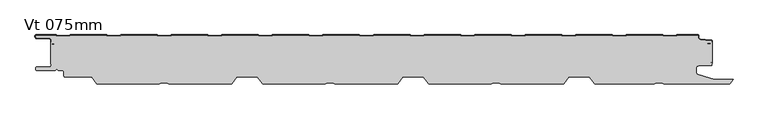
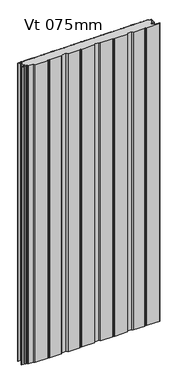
"""IFC4 building model written with IfcOpenShell, lengths in millimetres: plate geometry, KIP-MEX-KW-R19-CP-Vt-KW7_SL : Vt 075mm."""

from ifc_helpers import new_model, si_unit, point, frame, frame_2d, origin, origin_with_axes, place, context, project, spatial, polyline, circle_curve, trimmed, segment, composite_curve, outline, extrude, source, transform, mapped, element, save
from ifc_brep_helpers import plane_surface, cylinder_surface, revolved_surface, advanced_brep


def vt_075mm_f3c19188(model_context):
    return source(origin(), model_context, "Body", "SolidModel", [
        advanced_brep(
        [(488.7785899, -14.1740781, 2400.0), (488.6914342, -13.1778834, 2400.0), (494.4799801, -12.6714513, 2400.0), (495.7350457, -11.7512327, 2400.0), (495.7350457, -9.8277288, 2400.0), (494.4792848, -8.9074494, 2400.0), (478.1842394, -7.4894566, 2400.0), (475.4443161, -4.5007512, 2400.0), (475.4443161, -1.0007512, 2400.0), (443.8382986, -1.0007512, 2400.0), (442.7532001, -2.1994992, 2400.0), (422.8212217, -2.1994992, 2400.0), (421.7346975, -1.0, 2400.0), (367.6854138, -1.0, 2400.0), (366.6003153, -2.1994992, 2400.0), (346.668337, -2.1994992, 2400.0), (345.5818127, -1.0, 2400.0), (291.5325291, -1.0, 2400.0), (290.4474305, -2.1994992, 2400.0), (270.5154522, -2.1994992, 2400.0), (269.4289279, -1.0, 2400.0), (215.3796443, -1.0, 2400.0), (214.2945458, -2.1994992, 2400.0), (194.3625675, -2.1994992, 2400.0), (193.2760432, -1.0, 2400.0), (139.2267595, -1.0, 2400.0), (138.141661, -2.1994992, 2400.0), (118.2096827, -2.1994992, 2400.0), (117.1231584, -1.0, 2400.0), (63.0738748, -1.0, 2400.0), (61.9887763, -2.1994992, 2400.0), (42.0567979, -2.1994992, 2400.0), (40.9702737, -1.0, 2400.0), (-13.07901, -1.0, 2400.0), (-14.1641085, -2.1994992, 2400.0), (-34.0960868, -2.1994992, 2400.0), (-35.1826111, -1.0, 2400.0), (-89.230469, -1.0, 2400.0), (-90.3169933, -2.1994992, 2400.0), (-110.2489716, -2.1994992, 2400.0), (-111.3354959, -1.0, 2400.0), (-165.3847795, -1.0, 2400.0), (-166.469878, -2.1994992, 2400.0), (-186.4018563, -2.1994992, 2400.0), (-187.4883806, -1.0, 2400.0), (-241.5362385, -1.0, 2400.0), (-242.6227628, -2.1994992, 2400.0), (-262.5547411, -2.1994992, 2400.0), (-263.6412654, -1.0, 2400.0), (-317.6891233, -1.0, 2400.0), (-318.7756475, -2.1994992, 2400.0), (-338.7076259, -2.1994992, 2400.0), (-339.7941501, -1.0, 2400.0), (-393.842008, -1.0, 2400.0), (-394.9285323, -2.1994992, 2400.0), (-414.8605106, -2.1994992, 2400.0), (-415.9470349, -1.0, 2400.0), (-469.9948928, -1.0, 2400.0), (-471.0814171, -2.1994992, 2400.0), (-491.0133954, -2.1994992, 2400.0), (-492.0999197, -1.0, 2400.0), (-522.505765, -1.0, 2400.0), (-522.505765, -2.5012654, 2400.0), (-520.006135, -5.0008953, 2400.0), (-502.0093092, -5.0008953, 2400.0), (-499.0079862, -8.000131, 2400.0), (-499.0079862, -11.5959732, 2400.0), (-497.766763, -13.0740828, 2400.0), (-494.2244631, -13.6959552, 2400.0), (-494.3973742, -14.6808886, 2400.0), (-497.9396714, -14.0590166, 2400.0), (-500.0000002, -11.7956848, 2400.0), (-500.0000002, -44.3622712, 2400.0), (-497.5115855, -41.8719911, 2400.0), (-492.2480458, -41.8719911, 2400.0), (-492.2480458, -42.8888414, 2400.0), (-497.5062725, -42.8888414, 2400.0), (-499.0056881, -44.3893811, 2400.0), (-499.0056881, -45.8143642, 2400.0), (-502.0059127, -48.8979571, 2400.0), (-521.0430726, -48.8979571, 2400.0), (-522.5064405, -50.3983418, 2400.0), (-522.5064405, -52.3814897, 2400.0), (-521.0062107, -53.8817196, 2400.0), (-493.1202477, -53.8817196, 2400.0), (-490.7060117, -51.4674051, 2400.0), (-488.2917757, -53.8815626, 2400.0), (-482.7060145, -53.8815626, 2400.0), (-479.7060088, -56.8815682, 2400.0), (-479.7060088, -62.3815743, 2400.0), (-478.2556825, -63.8807501, 2400.0), (-438.275811, -63.8807501, 2400.0), (-430.367997, -74.0007512, 2400.0), (-336.0919259, -74.0007512, 2400.0), (-333.091739, -72.5007486, 2400.0), (-324.6196287, -72.5007486, 2400.0), (-321.6194418, -74.0007512, 2400.0), (-227.3363087, -74.0007512, 2400.0), (-219.3363087, -64.0007512, 2400.0), (-188.375059, -64.0007512, 2400.0), (-180.375059, -74.0007512, 2400.0), (-86.0919259, -74.0007512, 2400.0), (-83.091739, -72.5007486, 2400.0), (-74.6196287, -72.5007486, 2400.0), (-71.6194418, -74.0007512, 2400.0), (22.6636913, -74.0007512, 2400.0), (30.6636913, -64.0007512, 2400.0), (61.624941, -64.0007512, 2400.0), (69.624941, -74.0007512, 2400.0), (163.9080741, -74.0007512, 2400.0), (166.908261, -72.5007486, 2400.0), (175.3803713, -72.5007486, 2400.0), (178.3805582, -74.0007512, 2400.0), (272.6636913, -74.0007512, 2400.0), (280.6636913, -64.0007512, 2400.0), (311.624941, -64.0007512, 2400.0), (319.624941, -74.0007512, 2400.0), (408.9083129, -74.0007512, 2400.0), (411.9084998, -72.5007486, 2400.0), (420.38061, -72.5007486, 2400.0), (423.3807969, -74.0007512, 2400.0), (522.656057, -74.0007512, 2400.0), (527.9339159, -67.2461374, 2400.0), (499.5757533, -67.2461374, 2400.0), (474.8575959, -60.1479029, 2400.0), (472.6935242, -57.2749195, 2400.0), (472.6935242, -49.8076629, 2400.0), (475.71441, -46.786777, 2400.0), (494.2379226, -46.786777, 2400.0), (495.7320319, -45.2926678, 2400.0), (495.7320319, -43.743257, 2400.0), (494.2336758, -42.244901, 2400.0), (489.7350458, -42.244901, 2400.0), (489.7350458, -41.2447029, 2400.0), (494.2339235, -41.2447029, 2400.0), (496.7325767, -43.7433561, 2400.0), (496.7325767, -11.9319683, 2400.0), (494.5671358, -13.667646, 2400.0), (488.7785899, -14.1740781, 0.0), (494.5671358, -13.667646, 0.0), (496.7325767, -11.9319683, 0.0), (496.7325767, -43.7433561, 0.0), (494.2339235, -41.2447029, 0.0), (489.7350458, -41.2447029, 0.0), (489.7350458, -42.244901, 0.0), (494.2336758, -42.244901, 0.0), (495.7320319, -43.743257, 0.0), (495.7320319, -45.2926678, 0.0), (494.2379226, -46.786777, 0.0), (475.71441, -46.786777, 0.0), (472.6935242, -49.8076629, 0.0), (472.6935242, -57.2749195, 0.0), (474.8575958, -60.1479032, 0.0), (499.5757533, -67.2461374, 0.0), (527.9339159, -67.2461374, 0.0), (522.656057, -74.0007512, 0.0), (423.3807969, -74.0007512, 0.0), (420.38061, -72.5007486, 0.0), (411.9084998, -72.5007486, 0.0), (408.9083129, -74.0007512, 0.0), (319.624941, -74.0007512, 0.0), (311.624941, -64.0007512, 0.0), (280.6636913, -64.0007512, 0.0), (272.6636913, -74.0007512, 0.0), (178.3805582, -74.0007512, 0.0), (175.3803713, -72.5007486, 0.0), (166.908261, -72.5007486, 0.0), (163.9080741, -74.0007512, 0.0), (69.624941, -74.0007512, 0.0), (61.624941, -64.0007512, 0.0), (30.6636913, -64.0007512, 0.0), (22.6636913, -74.0007512, 0.0), (-71.6194418, -74.0007512, 0.0), (-74.6196287, -72.5007486, 0.0), (-83.091739, -72.5007486, 0.0), (-86.0919259, -74.0007512, 0.0), (-180.375059, -74.0007512, 0.0), (-188.375059, -64.0007512, 0.0), (-219.3363087, -64.0007512, 0.0), (-227.3363087, -74.0007512, 0.0), (-321.6194418, -74.0007512, 0.0), (-324.6196287, -72.5007486, 0.0), (-333.091739, -72.5007486, 0.0), (-336.0919259, -74.0007512, 0.0), (-430.367997, -74.0007512, 0.0), (-438.275811, -63.8807501, 0.0), (-478.2556825, -63.8807501, 0.0), (-479.7060088, -62.3815743, 0.0), (-479.7060088, -56.8815682, 0.0), (-482.7060145, -53.8815626, 0.0), (-488.2917757, -53.8815626, 0.0), (-490.7060117, -51.4674051, 0.0), (-493.1202477, -53.8817196, 0.0), (-521.0062107, -53.8817196, 0.0), (-522.5064405, -52.3814897, 0.0), (-522.5064405, -50.3983418, 0.0), (-521.0430726, -48.8979571, 0.0), (-502.0059127, -48.8979571, 0.0), (-499.0056881, -45.8143642, 0.0), (-499.0056881, -44.3893811, 0.0), (-497.5062725, -42.8888414, 0.0), (-492.2480458, -42.8888414, 0.0), (-492.2480458, -41.8719911, 0.0), (-497.5115855, -41.8719911, 0.0), (-500.0000002, -44.3622712, 0.0), (-500.0000002, -11.7956848, 0.0), (-497.9396714, -14.0590167, 0.0), (-494.3973742, -14.6808886, 0.0), (-494.2244631, -13.6959552, 0.0), (-497.766763, -13.0740827, 0.0), (-499.0079862, -11.5959732, 0.0), (-499.0079862, -8.000131, 0.0), (-502.0093092, -5.0008953, 0.0), (-520.006135, -5.0008953, 0.0), (-522.505765, -2.5012654, 0.0), (-522.505765, -1.0, 0.0), (-492.0999197, -1.0, 0.0), (-491.0133954, -2.1994992, 0.0), (-471.0814171, -2.1994992, 0.0), (-469.9948928, -1.0, 0.0), (-415.9470349, -1.0, 0.0), (-414.8605106, -2.1994992, 0.0), (-394.9285323, -2.1994992, 0.0), (-393.842008, -1.0, 0.0), (-339.7941501, -1.0, 0.0), (-338.7076259, -2.1994992, 0.0), (-318.7756475, -2.1994992, 0.0), (-317.6891233, -1.0, 0.0), (-263.6412654, -1.0, 0.0), (-262.5547411, -2.1994992, 0.0), (-242.6227628, -2.1994992, 0.0), (-241.5362385, -1.0, 0.0), (-187.4883806, -1.0, 0.0), (-186.4018563, -2.1994992, 0.0), (-166.469878, -2.1994992, 0.0), (-165.3847795, -1.0, 0.0), (-111.3354959, -1.0, 0.0), (-110.2489716, -2.1994992, 0.0), (-90.3169933, -2.1994992, 0.0), (-89.230469, -1.0, 0.0), (-35.1826111, -1.0, 0.0), (-34.0960868, -2.1994992, 0.0), (-14.1641085, -2.1994992, 0.0), (-13.07901, -1.0, 0.0), (40.9702737, -1.0, 0.0), (42.0567979, -2.1994992, 0.0), (61.9887763, -2.1994992, 0.0), (63.0738748, -1.0, 0.0), (117.1231584, -1.0, 0.0), (118.2096827, -2.1994992, 0.0), (138.141661, -2.1994992, 0.0), (139.2267595, -1.0, 0.0), (193.2760432, -1.0, 0.0), (194.3625675, -2.1994992, 0.0), (214.2945458, -2.1994992, 0.0), (215.3796443, -1.0, 0.0), (269.4289279, -1.0, 0.0), (270.5154522, -2.1994992, 0.0), (290.4474305, -2.1994992, 0.0), (291.5325291, -1.0, 0.0), (345.5818127, -1.0, 0.0), (346.668337, -2.1994992, 0.0), (366.6003153, -2.1994992, 0.0), (367.6854138, -1.0, 0.0), (421.7346975, -1.0, 0.0), (422.8212217, -2.1994992, 0.0), (442.7532001, -2.1994992, 0.0), (443.8382986, -1.0007512, 0.0), (475.4443161, -1.0007512, 0.0), (475.4443161, -4.5007512, 0.0), (478.1842394, -7.4894566, 0.0), (494.4792848, -8.9074494, 0.0), (495.7350457, -9.8277288, 0.0), (495.7350457, -11.7512327, 0.0), (494.4799801, -12.6714513, 0.0), (488.6914342, -13.1778834, 0.0)],
        [
            (0, 1),
            (1, 2),
            (2, 3, circle_curve(frame((494.3492464, -11.1771592, 2400.0), z_axis=(0.0, 0.0, 1.0), x_axis=(-1.0, 0.0, 0.0)), 1.5)),
            (3, 4),
            (4, 5, circle_curve(frame((494.3492464, -10.4018021, 2400.0), z_axis=(0.0, 0.0, 1.0), x_axis=(-1.0, 0.0, 0.0)), 1.4999999)),
            (5, 6),
            (6, 7, circle_curve(frame((478.4443161, -4.5007512, 2400.0), z_axis=(0.0, 0.0, -1.0), x_axis=(-1.0, 0.0, 0.0)), 3.0)),
            (7, 8),
            (8, 9),
            (9, 10),
            (10, 11),
            (11, 12),
            (12, 13),
            (13, 14),
            (14, 15),
            (15, 16),
            (16, 17),
            (17, 18),
            (18, 19),
            (19, 20),
            (20, 21),
            (21, 22),
            (22, 23),
            (23, 24),
            (24, 25),
            (25, 26),
            (26, 27),
            (27, 28),
            (28, 29),
            (29, 30),
            (30, 31),
            (31, 32),
            (32, 33),
            (33, 34),
            (34, 35),
            (35, 36),
            (36, 37),
            (37, 38),
            (38, 39),
            (39, 40),
            (40, 41),
            (41, 42),
            (42, 43),
            (43, 44),
            (44, 45),
            (45, 46),
            (46, 47),
            (47, 48),
            (48, 49),
            (49, 50),
            (50, 51),
            (51, 52),
            (52, 53),
            (53, 54),
            (54, 55),
            (55, 56),
            (56, 57),
            (57, 58),
            (58, 59),
            (59, 60),
            (60, 61),
            (61, 62),
            (62, 63, circle_curve(frame((-520.006135, -2.5012654, 2400.0), z_axis=(0.0, 0.0, 1.0), x_axis=(-1.0, 0.0, 0.0)), 2.4996299)),
            (63, 64),
            (64, 65, circle_curve(frame((-502.0093092, -8.002219, 2400.0), z_axis=(0.0, 0.0, -1.0), x_axis=(-1.0, 0.0, 0.0)), 3.0013237)),
            (65, 66),
            (66, 67, circle_curve(frame((-497.5072719, -11.5959732, 2400.0), z_axis=(0.0, 0.0, 1.0), x_axis=(-1.0, 0.0, 0.0)), 1.5007143)),
            (67, 68),
            (68, 69),
            (69, 70),
            (70, 71, circle_curve(frame((-497.5072673, -11.5959632, 2400.0), z_axis=(0.0, 0.0, -1.0), x_axis=(-1.0, 0.0, 0.0)), 2.500721)),
            (71, 72),
            (72, 73, circle_curve(frame((-497.5097194, -44.3622712, 2400.0), z_axis=(0.0, 0.0, -1.0), x_axis=(0.0, 1.0, 0.0)), 2.4902807)),
            (73, 74),
            (74, 75),
            (75, 76),
            (76, 77, circle_curve(frame((-497.5051479, -44.3893811, 2400.0), z_axis=(0.0, 0.0, 1.0), x_axis=(0.0, 1.0, 0.0)), 1.5005402)),
            (77, 78),
            (78, 79, circle_curve(frame((-502.0059127, -45.8966056, 2400.0), z_axis=(0.0, 0.0, -1.0), x_axis=(0.0, 1.0, 0.0)), 3.0013516)),
            (79, 80),
            (80, 81, circle_curve(frame((-521.0055876, -50.3983418, 2400.0), z_axis=(0.0, 0.0, 1.0), x_axis=(0.0, 1.0, 0.0)), 1.5008529)),
            (81, 82),
            (82, 83, circle_curve(frame((-521.0062107, -52.3814897, 2400.0), z_axis=(0.0, 0.0, 1.0), x_axis=(0.0, 1.0, 0.0)), 1.5002298)),
            (83, 84),
            (84, 85),
            (85, 86),
            (86, 87),
            (87, 88, circle_curve(frame((-482.7060145, -56.8815682, 2400.0), z_axis=(0.0, 0.0, -1.0), x_axis=(0.0, 1.0, 0.0)), 3.0000056)),
            (88, 89),
            (89, 90, circle_curve(frame((-478.2060104, -62.3815743, 2400.0), z_axis=(0.0, 0.0, 1.0), x_axis=(0.0, 1.0, 0.0)), 1.4999984)),
            (90, 91),
            (91, 92),
            (92, 93),
            (93, 94),
            (94, 95),
            (95, 96),
            (96, 97),
            (97, 98),
            (98, 99),
            (99, 100),
            (100, 101),
            (101, 102),
            (102, 103),
            (103, 104),
            (104, 105),
            (105, 106),
            (106, 107),
            (107, 108),
            (108, 109),
            (109, 110),
            (110, 111),
            (111, 112),
            (112, 113),
            (113, 114),
            (114, 115),
            (115, 116),
            (116, 117),
            (117, 118),
            (118, 119),
            (119, 120),
            (120, 121),
            (121, 122),
            (122, 123),
            (123, 124),
            (124, 125, circle_curve(frame((475.6826214, -57.2749195, 2400.0), z_axis=(0.0, 0.0, -1.0), x_axis=(0.0, 1.0, 0.0)), 2.9890972)),
            (125, 126),
            (126, 127, circle_curve(frame((475.71441, -49.8076629, 2400.0), z_axis=(0.0, 0.0, -1.0), x_axis=(0.0, 1.0, 0.0)), 3.0208858)),
            (127, 128),
            (128, 129, circle_curve(frame((494.2379226, -45.2926678, 2400.0), z_axis=(0.0, 0.0, 1.0), x_axis=(0.0, 1.0, 0.0)), 1.4941093)),
            (129, 130),
            (130, 131, circle_curve(frame((494.2336758, -43.743257, 2400.0), z_axis=(0.0, 0.0, 1.0), x_axis=(0.0, 1.0, 0.0)), 1.4983561)),
            (131, 132),
            (132, 133),
            (133, 134),
            (134, 135, circle_curve(frame((494.2339235, -43.7433561, 2400.0), z_axis=(0.0, 0.0, -1.0), x_axis=(0.0, 1.0, 0.0)), 2.4986532)),
            (135, 136),
            (136, 137, circle_curve(frame((494.3492464, -11.1771592, 2400.0), z_axis=(0.0, 0.0, -1.0), x_axis=(-1.0, 0.0, 0.0)), 2.5)),
            (137, 0),
            (138, 139),
            (139, 140, circle_curve(frame((494.3492464, -11.1771592, 0.0), z_axis=(0.0, 0.0, 1.0), x_axis=(-1.0, 0.0, 0.0)), 2.5)),
            (140, 141),
            (141, 142, circle_curve(frame((494.2339235, -43.7433561, 0.0), z_axis=(0.0, 0.0, 1.0), x_axis=(0.0, 1.0, 0.0)), 2.4986532)),
            (142, 143),
            (143, 144),
            (144, 145),
            (145, 146, circle_curve(frame((494.2336758, -43.743257, 0.0), z_axis=(0.0, 0.0, -1.0), x_axis=(0.0, 1.0, 0.0)), 1.4983561)),
            (146, 147),
            (147, 148, circle_curve(frame((494.2379226, -45.2926678, 0.0), z_axis=(0.0, 0.0, -1.0), x_axis=(0.0, 1.0, 0.0)), 1.4941093)),
            (148, 149),
            (149, 150, circle_curve(frame((475.71441, -49.8076629, 0.0), z_axis=(0.0, 0.0, 1.0), x_axis=(0.0, 1.0, 0.0)), 3.0208858)),
            (150, 151),
            (151, 152, circle_curve(frame((475.6826214, -57.2749195, 0.0), z_axis=(0.0, 0.0, 1.0), x_axis=(0.0, 1.0, 0.0)), 2.9890972)),
            (152, 153),
            (153, 154),
            (154, 155),
            (155, 156),
            (156, 157),
            (157, 158),
            (158, 159),
            (159, 160),
            (160, 161),
            (161, 162),
            (162, 163),
            (163, 164),
            (164, 165),
            (165, 166),
            (166, 167),
            (167, 168),
            (168, 169),
            (169, 170),
            (170, 171),
            (171, 172),
            (172, 173),
            (173, 174),
            (174, 175),
            (175, 176),
            (176, 177),
            (177, 178),
            (178, 179),
            (179, 180),
            (180, 181),
            (181, 182),
            (182, 183),
            (183, 184),
            (184, 185),
            (185, 186),
            (186, 187, circle_curve(frame((-478.2060104, -62.3815743, 0.0), z_axis=(0.0, 0.0, -1.0), x_axis=(0.0, 1.0, 0.0)), 1.4999984)),
            (187, 188),
            (188, 189, circle_curve(frame((-482.7060145, -56.8815682, 0.0), z_axis=(0.0, 0.0, 1.0), x_axis=(0.0, 1.0, 0.0)), 3.0000056)),
            (189, 190),
            (190, 191),
            (191, 192),
            (192, 193),
            (193, 194, circle_curve(frame((-521.0062107, -52.3814897, 0.0), z_axis=(0.0, 0.0, -1.0), x_axis=(0.0, 1.0, 0.0)), 1.5002298)),
            (194, 195),
            (195, 196, circle_curve(frame((-521.0055876, -50.3983418, 0.0), z_axis=(0.0, 0.0, -1.0), x_axis=(0.0, 1.0, 0.0)), 1.5008529)),
            (196, 197),
            (197, 198, circle_curve(frame((-502.0059127, -45.8966056, 0.0), z_axis=(0.0, 0.0, 1.0), x_axis=(0.0, 1.0, 0.0)), 3.0013516)),
            (198, 199),
            (199, 200, circle_curve(frame((-497.5051479, -44.3893811, 0.0), z_axis=(0.0, 0.0, -1.0), x_axis=(0.0, 1.0, 0.0)), 1.5005402)),
            (200, 201),
            (201, 202),
            (202, 203),
            (203, 204, circle_curve(frame((-497.5097194, -44.3622712, 0.0), z_axis=(0.0, 0.0, 1.0), x_axis=(0.0, 1.0, 0.0)), 2.4902807)),
            (204, 205),
            (205, 206, circle_curve(frame((-497.5072673, -11.5959632, 0.0), z_axis=(0.0, 0.0, 1.0), x_axis=(-1.0, 0.0, 0.0)), 2.500721)),
            (206, 207),
            (207, 208),
            (208, 209),
            (209, 210, circle_curve(frame((-497.5072719, -11.5959732, 0.0), z_axis=(0.0, 0.0, -1.0), x_axis=(-1.0, 0.0, 0.0)), 1.5007143)),
            (210, 211),
            (211, 212, circle_curve(frame((-502.0093092, -8.002219, 0.0), z_axis=(0.0, 0.0, 1.0), x_axis=(-1.0, 0.0, 0.0)), 3.0013237)),
            (212, 213),
            (213, 214, circle_curve(frame((-520.006135, -2.5012654, 0.0), z_axis=(0.0, 0.0, -1.0), x_axis=(-1.0, 0.0, 0.0)), 2.4996299)),
            (214, 215),
            (215, 216),
            (216, 217),
            (217, 218),
            (218, 219),
            (219, 220),
            (220, 221),
            (221, 222),
            (222, 223),
            (223, 224),
            (224, 225),
            (225, 226),
            (226, 227),
            (227, 228),
            (228, 229),
            (229, 230),
            (230, 231),
            (231, 232),
            (232, 233),
            (233, 234),
            (234, 235),
            (235, 236),
            (236, 237),
            (237, 238),
            (238, 239),
            (239, 240),
            (240, 241),
            (241, 242),
            (242, 243),
            (243, 244),
            (244, 245),
            (245, 246),
            (246, 247),
            (247, 248),
            (248, 249),
            (249, 250),
            (250, 251),
            (251, 252),
            (252, 253),
            (253, 254),
            (254, 255),
            (255, 256),
            (256, 257),
            (257, 258),
            (258, 259),
            (259, 260),
            (260, 261),
            (261, 262),
            (262, 263),
            (263, 264),
            (264, 265),
            (265, 266),
            (266, 267),
            (267, 268),
            (268, 269),
            (269, 270, circle_curve(frame((478.4443161, -4.5007512, 0.0), z_axis=(0.0, 0.0, 1.0), x_axis=(-1.0, 0.0, 0.0)), 3.0)),
            (270, 271),
            (271, 272, circle_curve(frame((494.3492464, -10.4018021, 0.0), z_axis=(0.0, 0.0, -1.0), x_axis=(-1.0, 0.0, 0.0)), 1.4999999)),
            (272, 273),
            (273, 274, circle_curve(frame((494.3492464, -11.1771592, 0.0), z_axis=(0.0, 0.0, -1.0), x_axis=(-1.0, 0.0, 0.0)), 1.5)),
            (274, 275),
            (275, 138),
            (137, 139),
            (138, 0),
            (136, 140),
            (135, 141),
            (134, 142),
            (133, 143),
            (132, 144),
            (131, 145),
            (130, 146),
            (129, 147),
            (128, 148),
            (127, 149),
            (126, 150),
            (125, 151),
            (124, 152),
            (123, 153),
            (122, 154),
            (121, 155),
            (120, 156),
            (92, 184),
            (183, 93),
            (91, 185),
            (90, 186),
            (89, 187),
            (88, 188),
            (87, 189),
            (86, 190),
            (85, 191),
            (84, 192),
            (83, 193),
            (82, 194),
            (81, 195),
            (80, 196),
            (79, 197),
            (78, 198),
            (77, 199),
            (76, 200),
            (75, 201),
            (74, 202),
            (73, 203),
            (72, 204),
            (71, 205),
            (70, 206),
            (69, 207),
            (68, 208),
            (67, 209),
            (66, 210),
            (65, 211),
            (64, 212),
            (63, 213),
            (62, 214),
            (61, 215),
            (60, 216),
            (59, 217),
            (58, 218),
            (57, 219),
            (56, 220),
            (55, 221),
            (54, 222),
            (53, 223),
            (52, 224),
            (51, 225),
            (50, 226),
            (49, 227),
            (48, 228),
            (47, 229),
            (46, 230),
            (45, 231),
            (44, 232),
            (43, 233),
            (42, 234),
            (41, 235),
            (40, 236),
            (39, 237),
            (38, 238),
            (37, 239),
            (36, 240),
            (35, 241),
            (34, 242),
            (33, 243),
            (32, 244),
            (31, 245),
            (30, 246),
            (29, 247),
            (28, 248),
            (27, 249),
            (26, 250),
            (25, 251),
            (24, 252),
            (23, 253),
            (22, 254),
            (21, 255),
            (20, 256),
            (19, 257),
            (18, 258),
            (17, 259),
            (16, 260),
            (15, 261),
            (14, 262),
            (13, 263),
            (12, 264),
            (11, 265),
            (10, 266),
            (9, 267),
            (8, 268),
            (7, 269),
            (6, 270),
            (5, 271),
            (4, 272),
            (3, 273),
            (2, 274),
            (1, 275),
            (119, 157),
            (118, 158),
            (117, 159),
            (116, 160),
            (115, 161),
            (114, 162),
            (113, 163),
            (112, 164),
            (111, 165),
            (110, 166),
            (109, 167),
            (108, 168),
            (107, 169),
            (106, 170),
            (105, 171),
            (104, 172),
            (103, 173),
            (102, 174),
            (101, 175),
            (100, 176),
            (99, 177),
            (98, 178),
            (97, 179),
            (96, 180),
            (95, 181),
            (94, 182),
        ],
        [
            plane_surface(frame((-1.6597565, -74.0, 2400.0), z_axis=(0.0, 0.0, 1.0), x_axis=(0.0, -1.0, 0.0))),
            plane_surface(frame((-1.6597565, -74.0, 0.0), z_axis=(0.0, 0.0, -1.0), x_axis=(0.0, -1.0, 0.0))),
            plane_surface(frame((488.7785899, -14.1740781, 2400.0), z_axis=(-0.08715574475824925, 0.9961946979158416, 0.0), x_axis=(0.0, 0.0, -1.0))),
            revolved_surface(polyline([(491.8492464, -11.1771592, 0.0), (491.8492464, -11.1771592, 2400.0)]), (494.3492464, -11.1771592, 2400.0), (0.0, 0.0, -1.0)),
            plane_surface(frame((496.7325767, -11.9319683, 2400.0), z_axis=(1.0, 0.0, 0.0), x_axis=(0.0, 0.0, -1.0))),
            revolved_surface(polyline([(494.2339235, -41.2447029, 0.0), (494.2339235, -41.2447029, 2400.0)]), (494.2339235, -43.7433561, 2400.0), (0.0, 0.0, -1.0)),
            plane_surface(frame((494.2339235, -41.2447029, 2400.0), z_axis=(0.0, -1.0, 0.0), x_axis=(0.0, 0.0, -1.0))),
            plane_surface(frame((489.7350458, -41.2447029, 2400.0), z_axis=(1.0, 0.0, 0.0), x_axis=(0.0, 0.0, -1.0))),
            plane_surface(frame((489.7350458, -42.244901, 2400.0), z_axis=(0.0, 1.0, 0.0), x_axis=(0.0, 0.0, -1.0))),
            cylinder_surface(frame((494.2336758, -43.743257, 2400.0), z_axis=(0.0, 0.0, 1.0), x_axis=(0.0, 1.0, 0.0)), 1.4983561),
            plane_surface(frame((495.7320319, -43.743257, 2400.0), z_axis=(1.0, 0.0, 0.0), x_axis=(0.0, 0.0, -1.0))),
            cylinder_surface(frame((494.2379226, -45.2926678, 2400.0), z_axis=(0.0, 0.0, 1.0), x_axis=(0.0, 1.0, 0.0)), 1.4941093),
            plane_surface(frame((494.2379226, -46.786777, 2400.0), z_axis=(0.0, -1.0, 0.0), x_axis=(0.0, 0.0, -1.0))),
            revolved_surface(polyline([(475.71441, -46.786777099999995, 0.0), (475.71441, -46.786777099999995, 2400.0)]), (475.71441, -49.8076629, 2400.0), (0.0, 0.0, -1.0)),
            plane_surface(frame((472.6935242, -49.8076629, 2400.0), z_axis=(1.0, 0.0, 0.0), x_axis=(0.0, 0.0, -1.0))),
            revolved_surface(polyline([(475.6826214, -54.28582230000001, 0.0), (475.6826214, -54.28582230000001, 2400.0)]), (475.6826214, -57.2749195, 2400.0), (0.0, 0.0, -1.0)),
            plane_surface(frame((474.8575959, -60.1479029, 2400.0), z_axis=(0.27601161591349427, 0.9611542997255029, 0.0), x_axis=(0.0, 0.0, -1.0))),
            plane_surface(frame((499.5757533, -67.2461374, 2400.0), z_axis=(0.0, 1.0, 0.0), x_axis=(0.0, 0.0, -1.0))),
            plane_surface(frame((527.9339159, -67.2461374, 2400.0), z_axis=(0.7879781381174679, -0.6157032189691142, 0.0), x_axis=(0.0, 0.0, -1.0))),
            plane_surface(frame((522.656057, -74.0007512, 2400.0), z_axis=(0.0, -1.0, 0.0), x_axis=(0.0, 0.0, -1.0))),
            plane_surface(frame((-336.0919259, -74.0007512, 2400.0), z_axis=(0.0, -1.0, 0.0), x_axis=(0.0, 0.0, -1.0))),
            plane_surface(frame((-430.367997, -74.0007512, 2400.0), z_axis=(-0.7879653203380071, -0.6157196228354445, 0.0), x_axis=(0.0, 0.0, -1.0))),
            plane_surface(frame((-438.275811, -63.8807501, 2400.0), z_axis=(0.0, -1.0, 0.0), x_axis=(0.0, 0.0, -1.0))),
            cylinder_surface(frame((-478.2060104, -62.3815743, 2400.0), z_axis=(0.0, 0.0, 1.0), x_axis=(0.0, 1.0, 0.0)), 1.4999984),
            plane_surface(frame((-479.7060088, -62.3815743, 2400.0), z_axis=(-1.0, 0.0, 0.0), x_axis=(0.0, 0.0, -1.0))),
            revolved_surface(polyline([(-482.7060145, -53.881562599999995, 0.0), (-482.7060145, -53.881562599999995, 2400.0)]), (-482.7060145, -56.8815682, 2400.0), (0.0, 0.0, -1.0)),
            plane_surface(frame((-482.7060145, -53.8815626, 2400.0), z_axis=(0.0, -1.0, 0.0), x_axis=(0.0, 0.0, -1.0))),
            plane_surface(frame((-488.2917757, -53.8815626, 2400.0), z_axis=(-0.7070952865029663, -0.707118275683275, 0.0), x_axis=(0.0, 0.0, -1.0))),
            plane_surface(frame((-490.7060117, -51.4674051, 2400.0), z_axis=(0.7071182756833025, -0.7070952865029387, 0.0), x_axis=(0.0, 0.0, -1.0))),
            plane_surface(frame((-493.1202477, -53.8817196, 2400.0), z_axis=(0.0, -1.0, 0.0), x_axis=(0.0, 0.0, -1.0))),
            cylinder_surface(frame((-521.0062107, -52.3814897, 2400.0), z_axis=(0.0, 0.0, 1.0), x_axis=(0.0, 1.0, 0.0)), 1.5002298),
            plane_surface(frame((-522.5064405, -52.3814897, 2400.0), z_axis=(-1.0, 0.0, 0.0), x_axis=(0.0, 0.0, -1.0))),
            cylinder_surface(frame((-521.0055876, -50.3983418, 2400.0), z_axis=(0.0, 0.0, 1.0), x_axis=(0.0, 1.0, 0.0)), 1.5008529),
            plane_surface(frame((-521.0430726, -48.8979571, 2400.0), z_axis=(0.0, 1.0, 0.0), x_axis=(0.0, 0.0, -1.0))),
            revolved_surface(polyline([(-502.0059127, -42.895254, 0.0), (-502.0059127, -42.895254, 2400.0)]), (-502.0059127, -45.8966056, 2400.0), (0.0, 0.0, -1.0)),
            plane_surface(frame((-499.0056881, -45.8143642, 2400.0), z_axis=(-1.0, 0.0, 0.0), x_axis=(0.0, 0.0, -1.0))),
            cylinder_surface(frame((-497.5051479, -44.3893811, 2400.0), z_axis=(0.0, 0.0, 1.0), x_axis=(0.0, 1.0, 0.0)), 1.5005402),
            plane_surface(frame((-497.5062725, -42.8888414, 2400.0), z_axis=(0.0, 1.0, 0.0), x_axis=(0.0, 0.0, -1.0))),
            plane_surface(frame((-492.2480458, -42.8888414, 2400.0), z_axis=(-1.0, 0.0, 0.0), x_axis=(0.0, 0.0, -1.0))),
            plane_surface(frame((-492.2480458, -41.8719911, 2400.0), z_axis=(0.0, -1.0, 0.0), x_axis=(0.0, 0.0, -1.0))),
            revolved_surface(polyline([(-497.5097194, -41.8719905, 0.0), (-497.5097194, -41.8719905, 2400.0)]), (-497.5097194, -44.3622712, 2400.0), (0.0, 0.0, -1.0)),
            plane_surface(frame((-500.0000002, -44.3622712, 2400.0), z_axis=(-1.0, 0.0, 0.0), x_axis=(0.0, 0.0, -1.0))),
            revolved_surface(polyline([(-500.0079883, -11.5959632, 0.0), (-500.0079883, -11.5959632, 2400.0)]), (-497.5072673, -11.5959632, 2400.0), (0.0, 0.0, -1.0)),
            plane_surface(frame((-497.9396714, -14.0590166, 2400.0), z_axis=(0.17291178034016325, 0.9849373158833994, 0.0), x_axis=(0.0, 0.0, -1.0))),
            plane_surface(frame((-494.3973742, -14.6808886, 2400.0), z_axis=(-0.9849373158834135, 0.17291178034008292, 0.0), x_axis=(0.0, 0.0, -1.0))),
            plane_surface(frame((-494.2244631, -13.6959552, 2400.0), z_axis=(-0.17291178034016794, -0.9849373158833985, 0.0), x_axis=(0.0, 0.0, -1.0))),
            cylinder_surface(frame((-497.5072719, -11.5959732, 2400.0), z_axis=(0.0, 0.0, 1.0), x_axis=(-1.0, 0.0, 0.0)), 1.5007143),
            plane_surface(frame((-499.0079862, -11.5959732, 2400.0), z_axis=(-1.0, 0.0, 0.0), x_axis=(0.0, 0.0, -1.0))),
            revolved_surface(polyline([(-505.0106329, -8.002219, 0.0), (-505.0106329, -8.002219, 2400.0)]), (-502.0093092, -8.002219, 2400.0), (0.0, 0.0, -1.0)),
            plane_surface(frame((-502.0093092, -5.0008953, 2400.0), z_axis=(0.0, -1.0, 0.0), x_axis=(0.0, 0.0, -1.0))),
            cylinder_surface(frame((-520.006135, -2.5012654, 2400.0), z_axis=(0.0, 0.0, 1.0), x_axis=(-1.0, 0.0, 0.0)), 2.4996299),
            plane_surface(frame((-522.505765, -2.5012654, 2400.0), z_axis=(-1.0, 0.0, 0.0), x_axis=(0.0, 0.0, -1.0))),
            plane_surface(frame((-522.505765, -1.0, 2400.0), z_axis=(0.0, 1.0, 0.0), x_axis=(0.0, 0.0, -1.0))),
            plane_surface(frame((-492.0999197, -1.0, 2400.0), z_axis=(0.7411473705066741, 0.671342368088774, 0.0), x_axis=(0.0, 0.0, -1.0))),
            plane_surface(frame((-491.0133954, -2.1994992, 2400.0), z_axis=(0.0, 1.0, 0.0), x_axis=(0.0, 0.0, -1.0))),
            plane_surface(frame((-471.0814171, -2.1994992, 2400.0), z_axis=(-0.7411473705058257, 0.6713423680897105, 0.0), x_axis=(0.0, 0.0, -1.0))),
            plane_surface(frame((-469.9948928, -1.0, 2400.0), z_axis=(0.0, 1.0, 0.0), x_axis=(0.0, 0.0, -1.0))),
            plane_surface(frame((-415.9470349, -1.0, 2400.0), z_axis=(0.7411473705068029, 0.6713423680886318, 0.0), x_axis=(0.0, 0.0, -1.0))),
            plane_surface(frame((-414.8605106, -2.1994992, 2400.0), z_axis=(0.0, 1.0, 0.0), x_axis=(0.0, 0.0, -1.0))),
            plane_surface(frame((-394.9285323, -2.1994992, 2400.0), z_axis=(-0.7411473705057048, 0.671342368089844, 0.0), x_axis=(0.0, 0.0, -1.0))),
            plane_surface(frame((-393.842008, -1.0, 2400.0), z_axis=(0.0, 1.0, 0.0), x_axis=(0.0, 0.0, -1.0))),
            plane_surface(frame((-339.7941501, -1.0, 2400.0), z_axis=(0.7411473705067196, 0.6713423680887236, 0.0), x_axis=(0.0, 0.0, -1.0))),
            plane_surface(frame((-338.7076259, -2.1994992, 2400.0), z_axis=(0.0, 1.0, 0.0), x_axis=(0.0, 0.0, -1.0))),
            plane_surface(frame((-318.7756475, -2.1994992, 2400.0), z_axis=(-0.7411473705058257, 0.6713423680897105, 0.0), x_axis=(0.0, 0.0, -1.0))),
            plane_surface(frame((-317.6891233, -1.0, 2400.0), z_axis=(0.0, 1.0, 0.0), x_axis=(0.0, 0.0, -1.0))),
            plane_surface(frame((-263.6412654, -1.0, 2400.0), z_axis=(0.7411473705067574, 0.6713423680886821, 0.0), x_axis=(0.0, 0.0, -1.0))),
            plane_surface(frame((-262.5547411, -2.1994992, 2400.0), z_axis=(0.0, 1.0, 0.0), x_axis=(0.0, 0.0, -1.0))),
            plane_surface(frame((-242.6227628, -2.1994992, 2400.0), z_axis=(-0.7411473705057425, 0.6713423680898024, 0.0), x_axis=(0.0, 0.0, -1.0))),
            plane_surface(frame((-241.5362385, -1.0, 2400.0), z_axis=(0.0, 1.0, 0.0), x_axis=(0.0, 0.0, -1.0))),
            plane_surface(frame((-187.4883806, -1.0, 2400.0), z_axis=(0.7411473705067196, 0.6713423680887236, 0.0), x_axis=(0.0, 0.0, -1.0))),
            plane_surface(frame((-186.4018563, -2.1994992, 2400.0), z_axis=(0.0, 1.0, 0.0), x_axis=(0.0, 0.0, -1.0))),
            plane_surface(frame((-166.469878, -2.1994992, 2400.0), z_axis=(-0.7415858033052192, 0.6708580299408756, 0.0), x_axis=(0.0, 0.0, -1.0))),
            plane_surface(frame((-165.3847795, -1.0, 2400.0), z_axis=(0.0, 1.0, 0.0), x_axis=(0.0, 0.0, -1.0))),
            plane_surface(frame((-111.3354959, -1.0, 2400.0), z_axis=(0.7411473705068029, 0.6713423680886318, 0.0), x_axis=(0.0, 0.0, -1.0))),
            plane_surface(frame((-110.2489716, -2.1994992, 2400.0), z_axis=(0.0, 1.0, 0.0), x_axis=(0.0, 0.0, -1.0))),
            plane_surface(frame((-90.3169933, -2.1994992, 2400.0), z_axis=(-0.7411473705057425, 0.6713423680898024, 0.0), x_axis=(0.0, 0.0, -1.0))),
            plane_surface(frame((-89.230469, -1.0, 2400.0), z_axis=(0.0, 1.0, 0.0), x_axis=(0.0, 0.0, -1.0))),
            plane_surface(frame((-35.1826111, -1.0, 2400.0), z_axis=(0.7411473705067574, 0.6713423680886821, 0.0), x_axis=(0.0, 0.0, -1.0))),
            plane_surface(frame((-34.0960868, -2.1994992, 2400.0), z_axis=(0.0, 1.0, 0.0), x_axis=(0.0, 0.0, -1.0))),
            plane_surface(frame((-14.1641085, -2.1994992, 2400.0), z_axis=(-0.7415858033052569, 0.670858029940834, 0.0), x_axis=(0.0, 0.0, -1.0))),
            plane_surface(frame((-13.07901, -1.0, 2400.0), z_axis=(0.0, 1.0, 0.0), x_axis=(0.0, 0.0, -1.0))),
            plane_surface(frame((40.9702737, -1.0, 2400.0), z_axis=(0.7411473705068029, 0.6713423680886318, 0.0), x_axis=(0.0, 0.0, -1.0))),
            plane_surface(frame((42.0567979, -2.1994992, 2400.0), z_axis=(0.0, 1.0, 0.0), x_axis=(0.0, 0.0, -1.0))),
            plane_surface(frame((61.9887763, -2.1994992, 2400.0), z_axis=(-0.7415858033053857, 0.6708580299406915, 0.0), x_axis=(0.0, 0.0, -1.0))),
            plane_surface(frame((63.0738748, -1.0, 2400.0), z_axis=(0.0, 1.0, 0.0), x_axis=(0.0, 0.0, -1.0))),
            plane_surface(frame((117.1231584, -1.0, 2400.0), z_axis=(0.7411473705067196, 0.6713423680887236, 0.0), x_axis=(0.0, 0.0, -1.0))),
            plane_surface(frame((118.2096827, -2.1994992, 2400.0), z_axis=(0.0, 1.0, 0.0), x_axis=(0.0, 0.0, -1.0))),
            plane_surface(frame((138.141661, -2.1994992, 2400.0), z_axis=(-0.7415858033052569, 0.670858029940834, 0.0), x_axis=(0.0, 0.0, -1.0))),
            plane_surface(frame((139.2267595, -1.0, 2400.0), z_axis=(0.0, 1.0, 0.0), x_axis=(0.0, 0.0, -1.0))),
            plane_surface(frame((193.2760432, -1.0, 2400.0), z_axis=(0.7411473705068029, 0.6713423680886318, 0.0), x_axis=(0.0, 0.0, -1.0))),
            plane_surface(frame((194.3625675, -2.1994992, 2400.0), z_axis=(0.0, 1.0, 0.0), x_axis=(0.0, 0.0, -1.0))),
            plane_surface(frame((214.2945458, -2.1994992, 2400.0), z_axis=(-0.7415858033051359, 0.6708580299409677, 0.0), x_axis=(0.0, 0.0, -1.0))),
            plane_surface(frame((215.3796443, -1.0, 2400.0), z_axis=(0.0, 1.0, 0.0), x_axis=(0.0, 0.0, -1.0))),
            plane_surface(frame((269.4289279, -1.0, 2400.0), z_axis=(0.7411473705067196, 0.6713423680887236, 0.0), x_axis=(0.0, 0.0, -1.0))),
            plane_surface(frame((270.5154522, -2.1994992, 2400.0), z_axis=(0.0, 1.0, 0.0), x_axis=(0.0, 0.0, -1.0))),
            plane_surface(frame((290.4474305, -2.1994992, 2400.0), z_axis=(-0.7415858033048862, 0.6708580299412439, 0.0), x_axis=(0.0, 0.0, -1.0))),
            plane_surface(frame((291.5325291, -1.0, 2400.0), z_axis=(0.0, 1.0, 0.0), x_axis=(0.0, 0.0, -1.0))),
            plane_surface(frame((345.5818127, -1.0, 2400.0), z_axis=(0.7411473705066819, 0.6713423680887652, 0.0), x_axis=(0.0, 0.0, -1.0))),
            plane_surface(frame((346.668337, -2.1994992, 2400.0), z_axis=(0.0, 1.0, 0.0), x_axis=(0.0, 0.0, -1.0))),
            plane_surface(frame((366.6003153, -2.1994992, 2400.0), z_axis=(-0.7415858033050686, 0.6708580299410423, 0.0), x_axis=(0.0, 0.0, -1.0))),
            plane_surface(frame((367.6854138, -1.0, 2400.0), z_axis=(0.0, 1.0, 0.0), x_axis=(0.0, 0.0, -1.0))),
            plane_surface(frame((421.7346975, -1.0, 2400.0), z_axis=(0.7411473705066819, 0.6713423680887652, 0.0), x_axis=(0.0, 0.0, -1.0))),
            plane_surface(frame((422.8212217, -2.1994992, 2400.0), z_axis=(0.0, 1.0, 0.0), x_axis=(0.0, 0.0, -1.0))),
            plane_surface(frame((442.7532001, -2.1994992, 2400.0), z_axis=(-0.7413766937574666, 0.6710891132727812, 0.0), x_axis=(0.0, 0.0, -1.0))),
            plane_surface(frame((443.8382986, -1.0007512, 2400.0), z_axis=(0.0, 1.0, 0.0), x_axis=(0.0, 0.0, -1.0))),
            plane_surface(frame((475.4443161, -1.0007512, 2400.0), z_axis=(1.0, 0.0, 0.0), x_axis=(0.0, 0.0, -1.0))),
            revolved_surface(polyline([(475.4443161, -4.5007512, 0.0), (475.4443161, -4.5007512, 2400.0)]), (478.4443161, -4.5007512, 2400.0), (0.0, 0.0, -1.0)),
            plane_surface(frame((478.1842394, -7.4894566, 2400.0), z_axis=(0.08669225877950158, 0.9962351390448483, 0.0), x_axis=(0.0, 0.0, -1.0))),
            cylinder_surface(frame((494.3492464, -10.4018021, 2400.0), z_axis=(0.0, 0.0, 1.0), x_axis=(-1.0, 0.0, 0.0)), 1.4999999),
            plane_surface(frame((495.7350457, -9.8277288, 2400.0), z_axis=(1.0, 0.0, 0.0), x_axis=(0.0, 0.0, -1.0))),
            cylinder_surface(frame((494.3492464, -11.1771592, 2400.0), z_axis=(0.0, 0.0, 1.0), x_axis=(-1.0, 0.0, 0.0)), 1.5),
            plane_surface(frame((494.4799801, -12.6714513, 2400.0), z_axis=(0.08715574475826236, -0.9961946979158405, 0.0), x_axis=(0.0, 0.0, -1.0))),
            plane_surface(frame((488.6914342, -13.1778834, 2400.0), z_axis=(0.9961946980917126, 0.08715574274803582, 0.0), x_axis=(0.0, 0.0, -1.0))),
            plane_surface(frame((423.3807969, -74.0007512, 2400.0), z_axis=(-0.44719190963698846, -0.8944380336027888, 0.0), x_axis=(0.0, 0.0, -1.0))),
            plane_surface(frame((420.38061, -72.5007486, 2400.0), z_axis=(0.0, -1.0, 0.0), x_axis=(0.0, 0.0, -1.0))),
            plane_surface(frame((411.9084998, -72.5007486, 2400.0), z_axis=(0.4471919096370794, -0.8944380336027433, 0.0), x_axis=(0.0, 0.0, -1.0))),
            plane_surface(frame((408.9083129, -74.0007512, 2400.0), z_axis=(0.0, -1.0, 0.0), x_axis=(0.0, 0.0, -1.0))),
            plane_surface(frame((319.624941, -74.0007512, 2400.0), z_axis=(-0.780868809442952, -0.6246950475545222, 0.0), x_axis=(0.0, 0.0, -1.0))),
            plane_surface(frame((311.624941, -64.0007512, 2400.0), z_axis=(0.0, -1.0, 0.0), x_axis=(0.0, 0.0, -1.0))),
            plane_surface(frame((280.6636913, -64.0007512, 2400.0), z_axis=(0.7808688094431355, -0.6246950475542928, 0.0), x_axis=(0.0, 0.0, -1.0))),
            plane_surface(frame((272.6636913, -74.0007512, 2400.0), z_axis=(0.0, -1.0, 0.0), x_axis=(0.0, 0.0, -1.0))),
            plane_surface(frame((178.3805582, -74.0007512, 2400.0), z_axis=(-0.4471919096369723, -0.894438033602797, 0.0), x_axis=(0.0, 0.0, -1.0))),
            plane_surface(frame((175.3803713, -72.5007486, 2400.0), z_axis=(0.0, -1.0, 0.0), x_axis=(0.0, 0.0, -1.0))),
            plane_surface(frame((166.908261, -72.5007486, 2400.0), z_axis=(0.4471919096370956, -0.8944380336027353, 0.0), x_axis=(0.0, 0.0, -1.0))),
            plane_surface(frame((163.9080741, -74.0007512, 2400.0), z_axis=(0.0, -1.0, 0.0), x_axis=(0.0, 0.0, -1.0))),
            plane_surface(frame((69.624941, -74.0007512, 2400.0), z_axis=(-0.7808688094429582, -0.6246950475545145, 0.0), x_axis=(0.0, 0.0, -1.0))),
            plane_surface(frame((61.624941, -64.0007512, 2400.0), z_axis=(0.0, -1.0, 0.0), x_axis=(0.0, 0.0, -1.0))),
            plane_surface(frame((30.6636913, -64.0007512, 2400.0), z_axis=(0.7808688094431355, -0.6246950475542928, 0.0), x_axis=(0.0, 0.0, -1.0))),
            plane_surface(frame((22.6636913, -74.0007512, 2400.0), z_axis=(0.0, -1.0, 0.0), x_axis=(0.0, 0.0, -1.0))),
            plane_surface(frame((-71.6194418, -74.0007512, 2400.0), z_axis=(-0.44719190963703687, -0.8944380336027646, 0.0), x_axis=(0.0, 0.0, -1.0))),
            plane_surface(frame((-74.6196287, -72.5007486, 2400.0), z_axis=(0.0, -1.0, 0.0), x_axis=(0.0, 0.0, -1.0))),
            plane_surface(frame((-83.091739, -72.5007486, 2400.0), z_axis=(0.447191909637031, -0.8944380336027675, 0.0), x_axis=(0.0, 0.0, -1.0))),
            plane_surface(frame((-86.0919259, -74.0007512, 2400.0), z_axis=(0.0, -1.0, 0.0), x_axis=(0.0, 0.0, -1.0))),
            plane_surface(frame((-180.375059, -74.0007512, 2400.0), z_axis=(-0.7808688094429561, -0.6246950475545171, 0.0), x_axis=(0.0, 0.0, -1.0))),
            plane_surface(frame((-188.375059, -64.0007512, 2400.0), z_axis=(0.0, -1.0, 0.0), x_axis=(0.0, 0.0, -1.0))),
            plane_surface(frame((-219.3363087, -64.0007512, 2400.0), z_axis=(0.7808688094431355, -0.6246950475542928, 0.0), x_axis=(0.0, 0.0, -1.0))),
            plane_surface(frame((-227.3363087, -74.0007512, 2400.0), z_axis=(0.0, -1.0, 0.0), x_axis=(0.0, 0.0, -1.0))),
            plane_surface(frame((-321.6194418, -74.0007512, 2400.0), z_axis=(-0.44719190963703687, -0.8944380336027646, 0.0), x_axis=(0.0, 0.0, -1.0))),
            plane_surface(frame((-324.6196287, -72.5007486, 2400.0), z_axis=(0.0, -1.0, 0.0), x_axis=(0.0, 0.0, -1.0))),
            plane_surface(frame((-333.091739, -72.5007486, 2400.0), z_axis=(0.447191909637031, -0.8944380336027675, 0.0), x_axis=(0.0, 0.0, -1.0))),
        ],
        [
            (0, [[1, 2, 3, 4, 5, 6, 7, 8, 9, 10, 11, 12, 13, 14, 15, 16, 17, 18, 19, 20, 21, 22, 23, 24, 25, 26, 27, 28, 29, 30, 31, 32, 33, 34, 35, 36, 37, 38, 39, 40, 41, 42, 43, 44, 45, 46, 47, 48, 49, 50, 51, 52, 53, 54, 55, 56, 57, 58, 59, 60, 61, 62, 63, 64, 65, 66, 67, 68, 69, 70, 71, 72, 73, 74, 75, 76, 77, 78, 79, 80, 81, 82, 83, 84, 85, 86, 87, 88, 89, 90, 91, 92, 93, 94, 95, 96, 97, 98, 99, 100, 101, 102, 103, 104, 105, 106, 107, 108, 109, 110, 111, 112, 113, 114, 115, 116, 117, 118, 119, 120, 121, 122, 123, 124, 125, 126, 127, 128, 129, 130, 131, 132, 133, 134, 135, 136, 137, 138]]),
            (1, [[139, 140, 141, 142, 143, 144, 145, 146, 147, 148, 149, 150, 151, 152, 153, 154, 155, 156, 157, 158, 159, 160, 161, 162, 163, 164, 165, 166, 167, 168, 169, 170, 171, 172, 173, 174, 175, 176, 177, 178, 179, 180, 181, 182, 183, 184, 185, 186, 187, 188, 189, 190, 191, 192, 193, 194, 195, 196, 197, 198, 199, 200, 201, 202, 203, 204, 205, 206, 207, 208, 209, 210, 211, 212, 213, 214, 215, 216, 217, 218, 219, 220, 221, 222, 223, 224, 225, 226, 227, 228, 229, 230, 231, 232, 233, 234, 235, 236, 237, 238, 239, 240, 241, 242, 243, 244, 245, 246, 247, 248, 249, 250, 251, 252, 253, 254, 255, 256, 257, 258, 259, 260, 261, 262, 263, 264, 265, 266, 267, 268, 269, 270, 271, 272, 273, 274, 275, 276]]),
            (2, [[277, -139, 278, -138]]),
            (3, [[279, -140, -277, -137]]),
            (4, [[280, -141, -279, -136]]),
            (5, [[281, -142, -280, -135]]),
            (6, [[282, -143, -281, -134]]),
            (7, [[283, -144, -282, -133]]),
            (8, [[284, -145, -283, -132]]),
            (9, [[285, -146, -284, -131]]),
            (10, [[286, -147, -285, -130]]),
            (11, [[287, -148, -286, -129]]),
            (12, [[288, -149, -287, -128]]),
            (13, [[289, -150, -288, -127]]),
            (14, [[290, -151, -289, -126]]),
            (15, [[291, -152, -290, -125]]),
            (16, [[292, -153, -291, -124]]),
            (17, [[293, -154, -292, -123]]),
            (18, [[294, -155, -293, -122]]),
            (19, [[295, -156, -294, -121]]),
            (20, [[296, -184, 297, -93]]),
            (21, [[298, -185, -296, -92]]),
            (22, [[299, -186, -298, -91]]),
            (23, [[300, -187, -299, -90]]),
            (24, [[301, -188, -300, -89]]),
            (25, [[302, -189, -301, -88]]),
            (26, [[303, -190, -302, -87]]),
            (27, [[304, -191, -303, -86]]),
            (28, [[305, -192, -304, -85]]),
            (29, [[306, -193, -305, -84]]),
            (30, [[307, -194, -306, -83]]),
            (31, [[308, -195, -307, -82]]),
            (32, [[309, -196, -308, -81]]),
            (33, [[310, -197, -309, -80]]),
            (34, [[311, -198, -310, -79]]),
            (35, [[312, -199, -311, -78]]),
            (36, [[313, -200, -312, -77]]),
            (37, [[314, -201, -313, -76]]),
            (38, [[315, -202, -314, -75]]),
            (39, [[316, -203, -315, -74]]),
            (40, [[317, -204, -316, -73]]),
            (41, [[318, -205, -317, -72]]),
            (42, [[319, -206, -318, -71]]),
            (43, [[320, -207, -319, -70]]),
            (44, [[321, -208, -320, -69]]),
            (45, [[322, -209, -321, -68]]),
            (46, [[323, -210, -322, -67]]),
            (47, [[324, -211, -323, -66]]),
            (48, [[325, -212, -324, -65]]),
            (49, [[326, -213, -325, -64]]),
            (50, [[327, -214, -326, -63]]),
            (51, [[328, -215, -327, -62]]),
            (52, [[329, -216, -328, -61]]),
            (53, [[330, -217, -329, -60]]),
            (54, [[331, -218, -330, -59]]),
            (55, [[332, -219, -331, -58]]),
            (56, [[333, -220, -332, -57]]),
            (57, [[334, -221, -333, -56]]),
            (58, [[335, -222, -334, -55]]),
            (59, [[336, -223, -335, -54]]),
            (60, [[337, -224, -336, -53]]),
            (61, [[338, -225, -337, -52]]),
            (62, [[339, -226, -338, -51]]),
            (63, [[340, -227, -339, -50]]),
            (64, [[341, -228, -340, -49]]),
            (65, [[342, -229, -341, -48]]),
            (66, [[343, -230, -342, -47]]),
            (67, [[344, -231, -343, -46]]),
            (68, [[345, -232, -344, -45]]),
            (69, [[346, -233, -345, -44]]),
            (70, [[347, -234, -346, -43]]),
            (71, [[348, -235, -347, -42]]),
            (72, [[349, -236, -348, -41]]),
            (73, [[350, -237, -349, -40]]),
            (74, [[351, -238, -350, -39]]),
            (75, [[352, -239, -351, -38]]),
            (76, [[353, -240, -352, -37]]),
            (77, [[354, -241, -353, -36]]),
            (78, [[355, -242, -354, -35]]),
            (79, [[356, -243, -355, -34]]),
            (80, [[357, -244, -356, -33]]),
            (81, [[358, -245, -357, -32]]),
            (82, [[359, -246, -358, -31]]),
            (83, [[360, -247, -359, -30]]),
            (84, [[361, -248, -360, -29]]),
            (85, [[362, -249, -361, -28]]),
            (86, [[363, -250, -362, -27]]),
            (87, [[364, -251, -363, -26]]),
            (88, [[365, -252, -364, -25]]),
            (89, [[366, -253, -365, -24]]),
            (90, [[367, -254, -366, -23]]),
            (91, [[368, -255, -367, -22]]),
            (92, [[369, -256, -368, -21]]),
            (93, [[370, -257, -369, -20]]),
            (94, [[371, -258, -370, -19]]),
            (95, [[372, -259, -371, -18]]),
            (96, [[373, -260, -372, -17]]),
            (97, [[374, -261, -373, -16]]),
            (98, [[375, -262, -374, -15]]),
            (99, [[376, -263, -375, -14]]),
            (100, [[377, -264, -376, -13]]),
            (101, [[378, -265, -377, -12]]),
            (102, [[379, -266, -378, -11]]),
            (103, [[380, -267, -379, -10]]),
            (104, [[381, -268, -380, -9]]),
            (105, [[382, -269, -381, -8]]),
            (106, [[383, -270, -382, -7]]),
            (107, [[384, -271, -383, -6]]),
            (108, [[385, -272, -384, -5]]),
            (109, [[386, -273, -385, -4]]),
            (110, [[387, -274, -386, -3]]),
            (111, [[388, -275, -387, -2]]),
            (112, [[-278, -276, -388, -1]]),
            (113, [[389, -157, -295, -120]]),
            (114, [[390, -158, -389, -119]]),
            (115, [[391, -159, -390, -118]]),
            (116, [[392, -160, -391, -117]]),
            (117, [[393, -161, -392, -116]]),
            (118, [[394, -162, -393, -115]]),
            (119, [[395, -163, -394, -114]]),
            (120, [[396, -164, -395, -113]]),
            (121, [[397, -165, -396, -112]]),
            (122, [[398, -166, -397, -111]]),
            (123, [[399, -167, -398, -110]]),
            (124, [[400, -168, -399, -109]]),
            (125, [[401, -169, -400, -108]]),
            (126, [[402, -170, -401, -107]]),
            (127, [[403, -171, -402, -106]]),
            (128, [[404, -172, -403, -105]]),
            (129, [[405, -173, -404, -104]]),
            (130, [[406, -174, -405, -103]]),
            (131, [[407, -175, -406, -102]]),
            (132, [[408, -176, -407, -101]]),
            (133, [[409, -177, -408, -100]]),
            (134, [[410, -178, -409, -99]]),
            (135, [[411, -179, -410, -98]]),
            (136, [[412, -180, -411, -97]]),
            (137, [[413, -181, -412, -96]]),
            (138, [[414, -182, -413, -95]]),
            (139, [[-297, -183, -414, -94]]),
        ],
    ),
        extrude(outline(composite_curve([segment(polyline([(118.6531271, -1.1979254), (137.6982166, -1.1979254), (138.7847409, 0.0), (193.7209131, 0.0), (194.8060118, -1.1979254), (213.8511014, -1.1979254), (214.9376257, 0.0), (269.8737979, 0.0), (270.9588966, -1.1979254), (290.0039862, -1.1979254), (291.0905104, 0.0), (346.0266826, 0.0), (347.1117813, -1.1979254), (366.1568709, -1.1979254), (367.2433952, 0.0015738), (422.1781418, 0.0015738), (423.2646661, -1.1979254), (442.3097557, -1.1979254), (443.3948544, -0.0055391), (474.9615045, -0.0055391)]), True, "CONTINUOUS"), segment(trimmed(circle_curve(frame_2d((474.9615045, -1.4964154)), 1.4908762), [point((474.9615045, -0.0055391))], [point((476.4523807, -1.4964154))], False, "CARTESIAN"), True, "CONTINUOUS"), segment(polyline([(476.4523807, -1.4964154), (476.4523807, -4.5006431)]), True, "CONTINUOUS"), segment(trimmed(circle_curve(frame_2d((478.4479669, -4.5006431)), 1.9955862), [point((476.4523807, -4.5006431))], [point((478.2745674, -6.4886815))], True, "CARTESIAN"), True, "CONTINUOUS"), segment(polyline([(478.2745674, -6.4886815), (494.5664751, -7.9096839)]), True, "CONTINUOUS"), segment(trimmed(circle_curve(frame_2d((494.3492464, -10.4002283)), 2.4999999), [point((494.5664751, -7.9096839))], [point((496.7350457, -9.6532601))], False, "CARTESIAN"), True, "CONTINUOUS"), segment(polyline([(496.7350457, -9.6532601), (496.7350457, -11.9225538)]), True, "CONTINUOUS"), segment(trimmed(circle_curve(frame_2d((494.3492464, -11.1755854)), 2.5), [point((496.7350457, -11.9225538))], [point((494.5671358, -13.6660722))], False, "CARTESIAN"), True, "CONTINUOUS"), segment(polyline([(494.5671358, -13.6660722), (488.7785899, -14.1725043), (488.6914342, -13.1763096), (494.4799801, -12.6698775)]), True, "CONTINUOUS"), segment(trimmed(circle_curve(frame_2d((494.3492464, -11.1755854)), 1.5), [point((494.4799801, -12.6698775))], [point((495.7350457, -11.7496588))], True, "CARTESIAN"), True, "CONTINUOUS"), segment(polyline([(495.7350457, -11.7496588), (495.7350457, -9.826155)]), True, "CONTINUOUS"), segment(trimmed(circle_curve(frame_2d((494.3492464, -10.4002283)), 1.4999999), [point((495.7350457, -9.826155))], [point((494.4792848, -8.9058756))], True, "CARTESIAN"), True, "CONTINUOUS"), segment(polyline([(494.4792848, -8.9058756), (478.1842394, -7.4878828)]), True, "CONTINUOUS"), segment(trimmed(circle_curve(frame_2d((478.4443161, -4.4991773)), 3.0), [point((478.1842394, -7.4878828))], [point((475.4443161, -4.4991773))], False, "CARTESIAN"), True, "CONTINUOUS"), segment(polyline([(475.4443161, -4.4991773), (475.4443161, -0.9991773), (443.8382986, -0.9991773), (442.7532001, -2.1979254), (422.8212217, -2.1979254), (421.7346975, -0.9984262), (367.6868396, -0.9984262), (366.6003153, -2.1979254), (346.668337, -2.1979254), (345.5818127, -0.9984262), (291.5339548, -0.9984262), (290.4474305, -2.1979254), (270.5154522, -2.1979254), (269.4289279, -0.9984262), (215.3810701, -0.9984262), (214.2945458, -2.1979254), (194.3625675, -2.1979254), (193.2760432, -0.9984262), (139.2281853, -0.9984262), (138.141661, -2.1979254), (118.2096827, -2.1979254), (117.1231584, -0.9984262), (63.0753005, -0.9984262), (61.9887763, -2.1979254), (42.0567979, -2.1979254), (40.9702737, -0.9984262), (-13.0775842, -0.9984262), (-14.1641085, -2.1979254), (-34.0960868, -2.1979254), (-35.1826111, -0.9984262), (-89.230469, -0.9984262), (-90.3169933, -2.1979254), (-110.2489716, -2.1979254), (-111.3354959, -0.9984262), (-165.3833537, -0.9984262), (-166.469878, -2.1979254), (-186.4018563, -2.1979254), (-187.4883806, -0.9984262), (-241.5376643, -0.9984262), (-242.6227628, -2.1979254), (-262.5547411, -2.1979254), (-263.6412654, -0.9984262), (-317.690549, -0.9984262), (-318.7756475, -2.1979254), (-338.7076259, -2.1979254), (-339.7941501, -0.9984262), (-393.8434338, -0.9984262), (-394.9285323, -2.1979254), (-414.8605106, -2.1979254), (-415.9470349, -0.9984262), (-469.9963185, -0.9984262), (-471.0814171, -2.1979254), (-491.0133954, -2.1979254), (-492.0999197, -0.9984262), (-522.5058798, -0.9984262), (-522.5058798, -2.4998352)]), True, "CONTINUOUS"), segment(trimmed(circle_curve(frame_2d((-520.0060776, -2.4998352)), 2.4998022), [point((-522.5058798, -2.4998352))], [point((-520.0060776, -4.9996374))], True, "CARTESIAN"), True, "CONTINUOUS"), segment(polyline([(-520.0060776, -4.9996374), (-502.0051317, -4.9996374)]), True, "CONTINUOUS"), segment(trimmed(circle_curve(frame_2d((-502.0051317, -8.0003457)), 3.0007082), [point((-502.0051317, -4.9996374))], [point((-499.0044242, -7.9982581))], False, "CARTESIAN"), True, "CONTINUOUS"), segment(polyline([(-499.0044242, -7.9982581), (-499.0044242, -11.5945268)]), True, "CONTINUOUS"), segment(trimmed(circle_curve(frame_2d((-497.5040253, -11.5945268)), 1.5003989), [point((-499.0044242, -11.5945268))], [point((-497.7635336, -13.072313))], True, "CARTESIAN"), True, "CONTINUOUS"), segment(polyline([(-497.7635336, -13.072313), (-494.221459, -13.694323), (-494.3944395, -14.679371), (-497.9367141, -14.0573259)]), True, "CONTINUOUS"), segment(trimmed(circle_curve(frame_2d((-497.5042136, -11.5944251)), 2.5005873), [point((-497.9367141, -14.0573259))], [point((-500.0048005, -11.5958995))], False, "CARTESIAN"), True, "CONTINUOUS"), segment(polyline([(-500.0048005, -11.5958995), (-500.0048005, -7.9987586)]), True, "CONTINUOUS"), segment(trimmed(circle_curve(frame_2d((-502.0053162, -8.0002578)), 2.0005162), [point((-500.0048005, -7.9987586))], [point((-502.0053162, -5.9997416))], True, "CARTESIAN"), True, "CONTINUOUS"), segment(polyline([(-502.0053162, -5.9997416), (-520.0060752, -5.9997416)]), True, "CONTINUOUS"), segment(trimmed(circle_curve(frame_2d((-520.0060752, -2.4998716)), 3.49987), [point((-520.0060752, -5.9997416))], [point((-523.5059452, -2.4998716))], False, "CARTESIAN"), True, "CONTINUOUS"), segment(polyline([(-523.5059452, -2.4998716), (-523.5059452, -1.4999879)]), True, "CONTINUOUS"), segment(trimmed(circle_curve(frame_2d((-522.0059815, -1.4999879)), 1.4999637), [point((-523.5059452, -1.4999879))], [point((-522.0059815, -2.42e-05))], False, "CARTESIAN"), True, "CONTINUOUS"), segment(polyline([(-522.0059815, -2.42e-05), (-491.6550497, -2.42e-05), (-490.569951, -1.1979254), (-471.5248614, -1.1979254), (-470.4383372, 0.0), (-415.502165, 0.0), (-414.4170663, -1.1979254), (-395.3719767, -1.1979254), (-394.2854524, 0.0), (-339.3492802, 0.0), (-338.2641815, -1.1979254), (-319.2190919, -1.1979254), (-318.1325676, 0.0), (-263.1963954, 0.0), (-262.1112967, -1.1979254), (-243.0662072, -1.1979254), (-241.9796829, 0.0), (-187.0435107, 0.0), (-185.958412, -1.1979254), (-166.9133224, -1.1979254), (-165.8267981, 0.0), (-110.8906259, 0.0), (-109.8055272, -1.1979254), (-90.7604376, -1.1979254), (-89.6739134, 0.0), (-34.7377412, 0.0), (-33.6526425, -1.1979254), (-14.6075529, -1.1979254), (-13.5210286, 0.0), (41.4151436, 0.0), (42.5002423, -1.1979254), (61.5453319, -1.1979254), (62.6318562, 0.0), (117.5680284, 0.0), (118.6531271, -1.1979254)]), True, "CONTINUOUS")], self_intersect=False)), origin_with_axes(), (0.0, 0.0, 1.0), 2400.0),
    ])


if __name__ == "__main__":
    model = new_model("IFC4")
    model_context = context("Model", 3, world=origin())
    ifc_project = project(units=[si_unit("LENGTHUNIT", "METRE", prefix="MILLI")], contexts=[model_context])
    site = spatial("IfcSite", under=ifc_project)
    building = spatial("IfcBuilding", under=site)
    placement = place(None, origin())
    vt_075mm_shape = vt_075mm_f3c19188(model_context)
    element("IfcPlate", 1, ObjectType="KIP-MEX-KW-R19-CP-Vt-KW7_SL : Vt 075mm", at=placement, inside=building, context=model_context, shape_type="MappedRepresentation", body=[
        mapped(vt_075mm_shape, transform((0.0, 0.0, 0.0), x_axis=(1.0, 0.0, 0.0), y_axis=(0.0, 1.0, 0.0), z_axis=(0.0, 0.0, 1.0))),
    ])
    save(model, "model.ifc")
